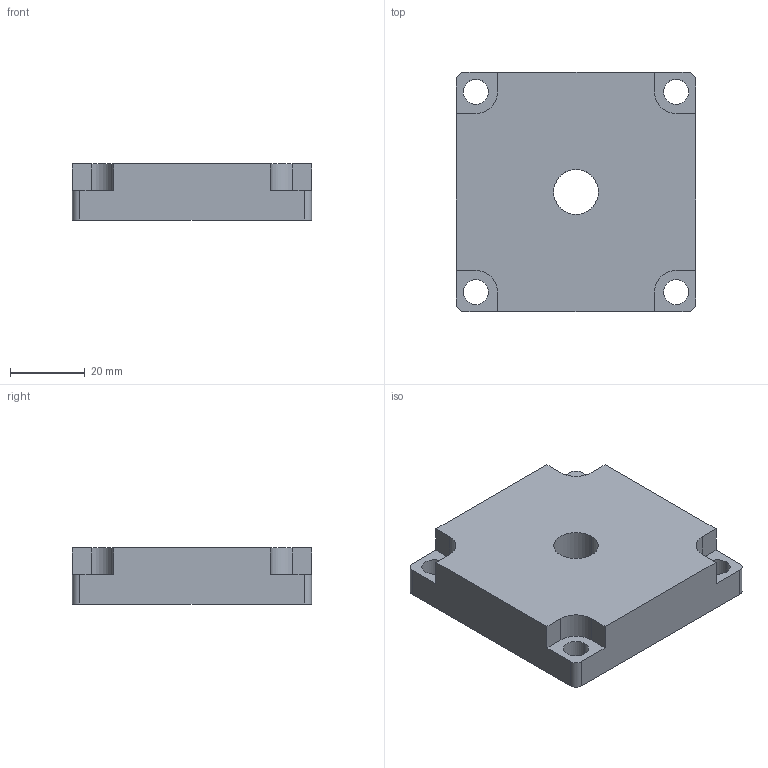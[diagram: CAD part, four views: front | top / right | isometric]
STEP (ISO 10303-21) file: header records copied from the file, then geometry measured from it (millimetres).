
FILE_DESCRIPTION (( 'STEP AP214' ), '1' );
FILE_NAME ('FBFE 64M12.step', '2017-04-05T08:02:49', ( '' ), ( '' ), 'SwSTEP 2.0', 'SolidWorks 2015', '' );
FILE_SCHEMA (( 'AUTOMOTIVE_DESIGN' ));
Length unit declared in the file: millimetre
Products named in the file (1): FBFE 64M12
Bounding box: 64 x 64 x 15 mm (x, y, z)
Volume: 55401.1 mm3; surface area: 12658.9 mm2
Topology: 1 solids, 1 shells, 36 faces, 102 edges, 68 vertices
Faces by surface type: cylinder 18, plane 18
Entity records: 1236 total; most frequent: DIRECTION 212, CARTESIAN_POINT 207, ORIENTED_EDGE 204, EDGE_CURVE 102, AXIS2_PLACEMENT_3D 73, VERTEX_POINT 68, LINE 66, VECTOR 66
